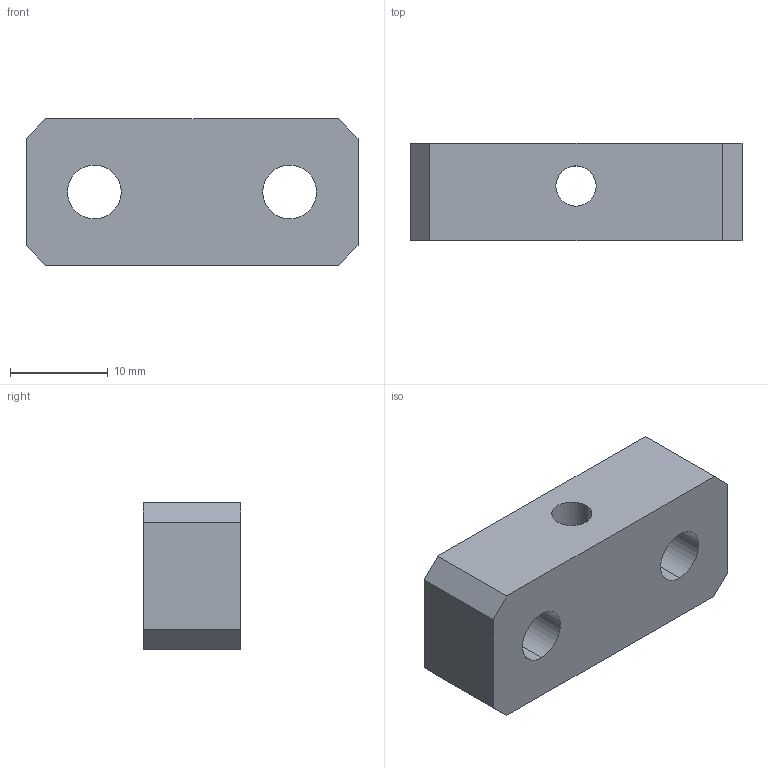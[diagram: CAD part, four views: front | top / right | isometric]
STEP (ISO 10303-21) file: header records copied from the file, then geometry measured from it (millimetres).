
FILE_DESCRIPTION (( 'STEP AP214' ), '1' );
FILE_NAME ('GZ21.21_V1絳砃謫覃誹輸2.STEP', '2021-02-27T15:51:18', ( 'hp' ), ( '' ), 'SwSTEP 2.0', 'SolidWorks 2017', '' );
FILE_SCHEMA (( 'AUTOMOTIVE_DESIGN' ));
Length unit declared in the file: millimetre
Products named in the file (1): GZ21.21_V1絳砃謫覃誹輸2
Bounding box: 34 x 10 x 15 mm (x, y, z)
Volume: 3719 mm3; surface area: 2516.8 mm2
Topology: 1 solids, 1 shells, 22 faces, 54 edges, 36 vertices
Faces by surface type: plane 12, cylinder 10
Entity records: 726 total; most frequent: DIRECTION 120, CARTESIAN_POINT 113, ORIENTED_EDGE 108, EDGE_CURVE 54, AXIS2_PLACEMENT_3D 43, VERTEX_POINT 36, VECTOR 34, LINE 34
